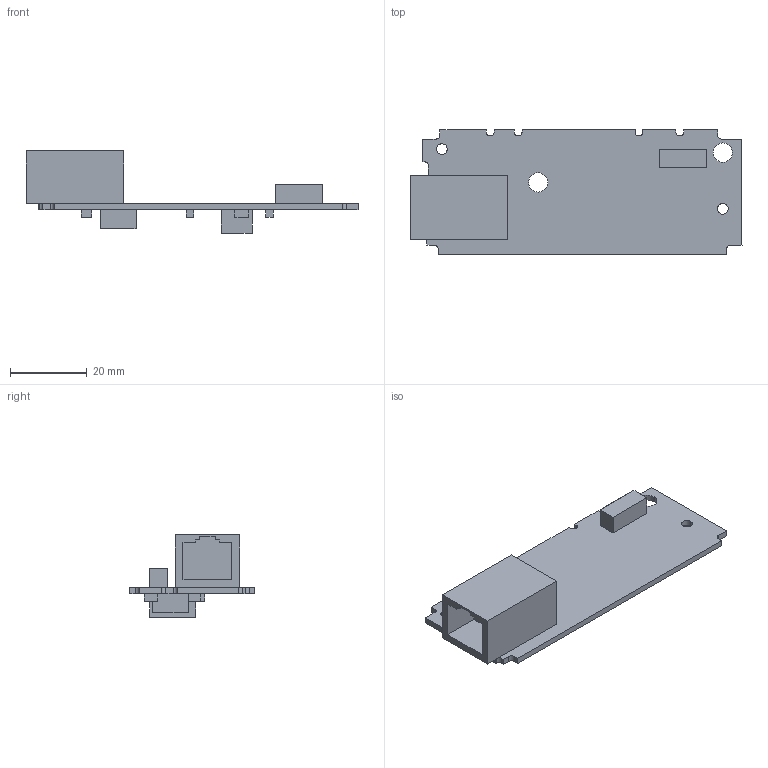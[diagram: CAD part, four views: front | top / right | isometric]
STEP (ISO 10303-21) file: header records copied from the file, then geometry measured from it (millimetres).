
FILE_DESCRIPTION (( 'STEP AP203' ), '1' );
FILE_NAME ('PCB-COM2.STEP', '2019-07-30T03:18:22', ( '' ), ( '' ), 'SwSTEP 2.0', 'SolidWorks 2017', '' );
FILE_SCHEMA (( 'CONFIG_CONTROL_DESIGN' ));
Length unit declared in the file: millimetre
Products named in the file (1): PCB-COM2
Bounding box: 86.3 x 32.32 x 21.4 mm (x, y, z)
Volume: 9985.1 mm3; surface area: 8034.6 mm2
Topology: 1 solids, 1 shells, 106 faces, 286 edges, 190 vertices
Faces by surface type: plane 86, cylinder 20
Entity records: 3389 total; most frequent: CARTESIAN_POINT 583, ORIENTED_EDGE 572, DIRECTION 542, EDGE_CURVE 286, LINE 244, VECTOR 244, VERTEX_POINT 190, AXIS2_PLACEMENT_3D 149
